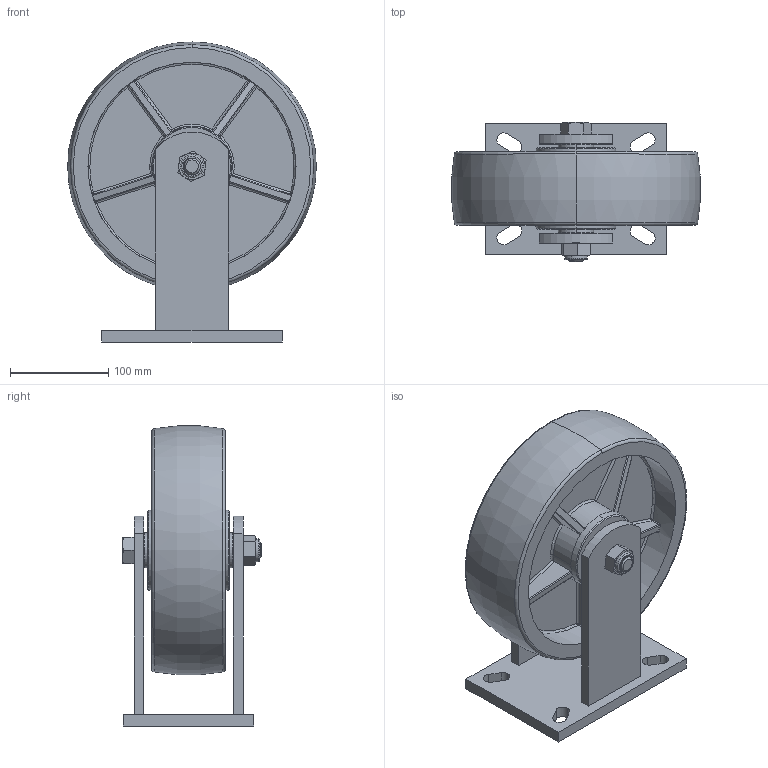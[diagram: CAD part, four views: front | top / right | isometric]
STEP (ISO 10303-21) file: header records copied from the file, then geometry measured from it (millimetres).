
FILE_DESCRIPTION (( 'STEP AP214' ), '1' );
FILE_NAME ('931010-9310-86T ¶¨Ïò.STEP', '2019-12-26T04:56:23', ( 'Owner' ), ( 'Organization' ), 'SwSTEP 2.0', 'SolidWorks 2014', '' );
FILE_SCHEMA (( 'AUTOMOTIVE_DESIGN' ));
Length unit declared in the file: millimetre
Products named in the file (6): 930-34; 930c00 隅殤侐源; 930-33; 9310c10; 931010-9310-86T 隅砃; 9310-86T
Assembly tree (6 placements, depth 2):
  931010-9310-86T 隅砃
    930c00 隅殤侐源
    930-33
    930-34
    9310c10  x2
    9310-86T
Bounding box: 253.31 x 142 x 305.66 mm (x, y, z)
Volume: 2605909.9 mm3; surface area: 379613.7 mm2
Topology: 6 solids, 6 shells, 445 faces, 1107 edges, 662 vertices
Faces by surface type: cylinder 176, bspline 105, plane 80, cone 44, torus 40
Entity records: 292833 total; most frequent: CARTESIAN_POINT 283393, ORIENTED_EDGE 2138, DIRECTION 1589, EDGE_CURVE 1069, VERTEX_POINT 650, AXIS2_PLACEMENT_3D 628, EDGE_LOOP 459, B_SPLINE_CURVE_WITH_KNOTS 447
